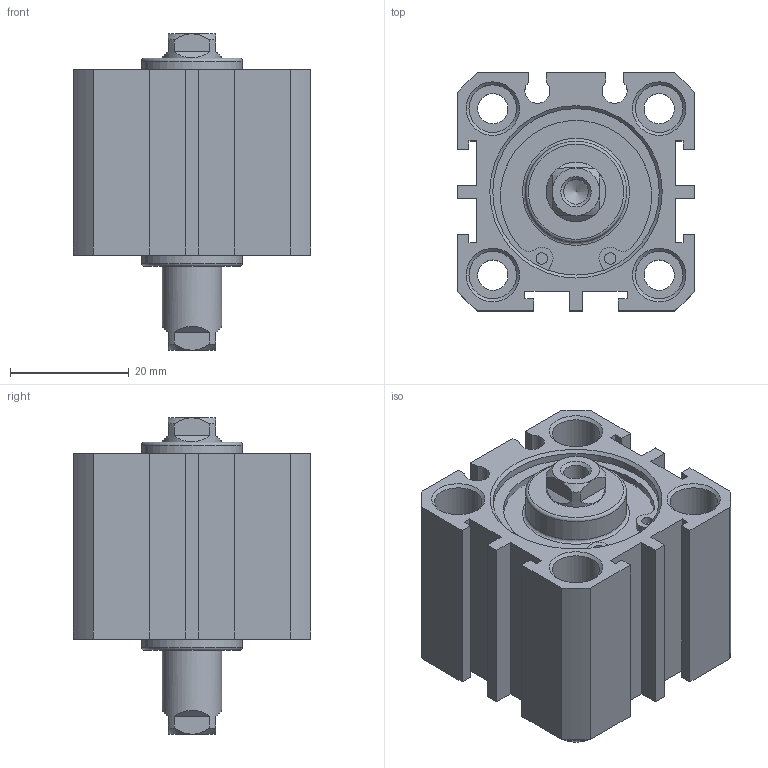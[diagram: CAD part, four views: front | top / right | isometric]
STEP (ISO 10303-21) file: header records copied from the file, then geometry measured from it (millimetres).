
FILE_DESCRIPTION((''),'2;1');
FILE_NAME('I:\3D電子目錄\氣缸\JDD\JDD\JDD25\JDD25x10.stp','2007-02-08T09:20:50',('662F206'),(''),'Autodesk Inventor 10','Autodesk Inventor 10','');
FILE_SCHEMA(('AUTOMOTIVE_DESIGN { 1 0 10303 214 1 1 1 1 }'));
Length unit declared in the file: millimetre
Products named in the file (3): JDD25; R 形環 28
Assembly tree (3 placements, depth 2):
  JDD25
    JDD25
    R 形環 28  x2
Bounding box: 40 x 40 x 53.2 mm (x, y, z)
Volume: 39820.7 mm3; surface area: 15623.2 mm2
Topology: 3 solids, 3 shells, 172 faces, 410 edges, 266 vertices
Faces by surface type: plane 92, cylinder 46, cone 22, bspline 10, torus 2
Full cylindrical faces by diameter (mm): 1.5 x2, 1.9 x4, 5.1 x4, 8 x8, 10 x2, 17 x2, 28 x4, 29.4 x2
Entity records: 4529 total; most frequent: CARTESIAN_POINT 950, DIRECTION 740, ORIENTED_EDGE 640, EDGE_CURVE 320, AXIS2_PLACEMENT_3D 280, EDGE_LOOP 244, VERTEX_POINT 236, VECTOR 180
